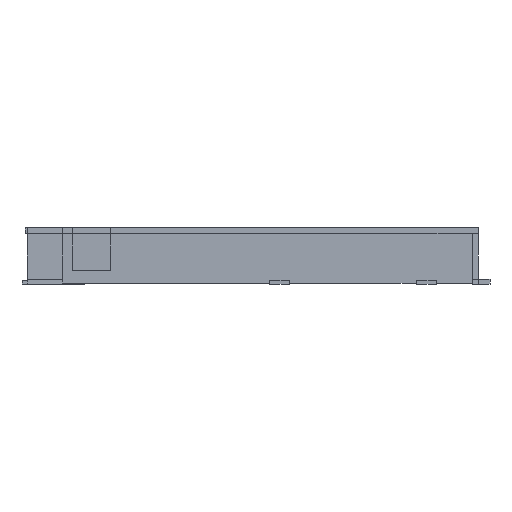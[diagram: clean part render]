
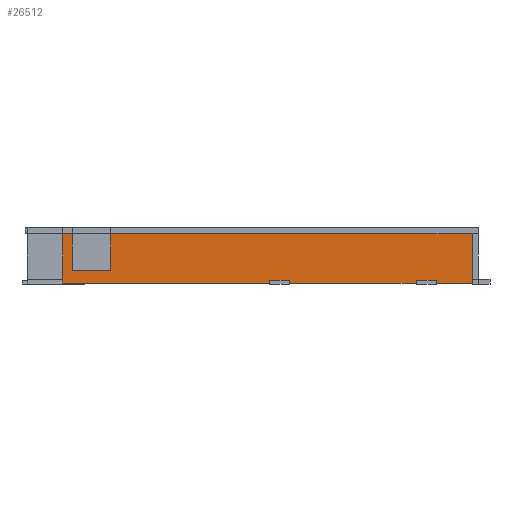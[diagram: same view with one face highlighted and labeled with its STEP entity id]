
A CAD part, left-side view. The second image highlights one B-rep face of the part: STEP entity #26512.
In plain terms, the highlighted planar face has unit normal (-1, 0, 0).
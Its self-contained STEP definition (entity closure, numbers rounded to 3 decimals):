
#26512 = ADVANCED_FACE('',(#26513),#26527,.F.);
#26513 = FACE_BOUND('',#26514,.T.);
#26514 = EDGE_LOOP('',(#26515,#26550,#26578,#26606));
#26515 = ORIENTED_EDGE('',*,*,#26516,.F.);
#26516 = EDGE_CURVE('',#26517,#26519,#26521,.T.);
#26517 = VERTEX_POINT('',#26518);
#26518 = CARTESIAN_POINT('',(-5.8,5.62,1.27));
#26519 = VERTEX_POINT('',#26520);
#26520 = CARTESIAN_POINT('',(-5.8,-5.55,1.27));
#26521 = SURFACE_CURVE('',#26522,(#26526,#26538),.PCURVE_S1.);
#26522 = LINE('',#26523,#26524);
#26523 = CARTESIAN_POINT('',(-5.8,5.62,1.27));
#26524 = VECTOR('',#26525,1.);
#26525 = DIRECTION('',(0.,-1.,0.));
#26526 = PCURVE('',#26527,#26532);
#26527 = PLANE('',#26528);
#26528 = AXIS2_PLACEMENT_3D('',#26529,#26530,#26531);
#26529 = CARTESIAN_POINT('',(-5.8,4.45,0.02));
#26530 = DIRECTION('',(1.,-0.,-0.));
#26531 = DIRECTION('',(0.,0.,-1.));
#26532 = DEFINITIONAL_REPRESENTATION('',(#26533),#26537);
#26533 = LINE('',#26534,#26535);
#26534 = CARTESIAN_POINT('',(-1.25,1.17));
#26535 = VECTOR('',#26536,1.);
#26536 = DIRECTION('',(-0.,-1.));
#26537 = ( GEOMETRIC_REPRESENTATION_CONTEXT(2) 
PARAMETRIC_REPRESENTATION_CONTEXT() REPRESENTATION_CONTEXT('2D SPACE',''
  ) );
#26538 = PCURVE('',#26539,#26544);
#26539 = PLANE('',#26540);
#26540 = AXIS2_PLACEMENT_3D('',#26541,#26542,#26543);
#26541 = CARTESIAN_POINT('',(-5.8,4.45,1.27));
#26542 = DIRECTION('',(-0.,-0.,1.));
#26543 = DIRECTION('',(-1.,0.,0.));
#26544 = DEFINITIONAL_REPRESENTATION('',(#26545),#26549);
#26545 = LINE('',#26546,#26547);
#26546 = CARTESIAN_POINT('',(0.,-1.17));
#26547 = VECTOR('',#26548,1.);
#26548 = DIRECTION('',(0.,1.));
#26549 = ( GEOMETRIC_REPRESENTATION_CONTEXT(2) 
PARAMETRIC_REPRESENTATION_CONTEXT() REPRESENTATION_CONTEXT('2D SPACE',''
  ) );
#26550 = ORIENTED_EDGE('',*,*,#26551,.F.);
#26551 = EDGE_CURVE('',#26552,#26517,#26554,.T.);
#26552 = VERTEX_POINT('',#26553);
#26553 = CARTESIAN_POINT('',(-5.8,5.62,0.02));
#26554 = SURFACE_CURVE('',#26555,(#26559,#26566),.PCURVE_S1.);
#26555 = LINE('',#26556,#26557);
#26556 = CARTESIAN_POINT('',(-5.8,5.62,0.02));
#26557 = VECTOR('',#26558,1.);
#26558 = DIRECTION('',(-0.,-0.,1.));
#26559 = PCURVE('',#26527,#26560);
#26560 = DEFINITIONAL_REPRESENTATION('',(#26561),#26565);
#26561 = LINE('',#26562,#26563);
#26562 = CARTESIAN_POINT('',(-0.,1.17));
#26563 = VECTOR('',#26564,1.);
#26564 = DIRECTION('',(-1.,0.));
#26565 = ( GEOMETRIC_REPRESENTATION_CONTEXT(2) 
PARAMETRIC_REPRESENTATION_CONTEXT() REPRESENTATION_CONTEXT('2D SPACE',''
  ) );
#26566 = PCURVE('',#26567,#26572);
#26567 = PLANE('',#26568);
#26568 = AXIS2_PLACEMENT_3D('',#26569,#26570,#26571);
#26569 = CARTESIAN_POINT('',(-5.8,5.62,0.02));
#26570 = DIRECTION('',(-0.,-1.,0.));
#26571 = DIRECTION('',(0.,0.,-1.));
#26572 = DEFINITIONAL_REPRESENTATION('',(#26573),#26577);
#26573 = LINE('',#26574,#26575);
#26574 = CARTESIAN_POINT('',(-0.,0.));
#26575 = VECTOR('',#26576,1.);
#26576 = DIRECTION('',(-1.,0.));
#26577 = ( GEOMETRIC_REPRESENTATION_CONTEXT(2) 
PARAMETRIC_REPRESENTATION_CONTEXT() REPRESENTATION_CONTEXT('2D SPACE',''
  ) );
#26578 = ORIENTED_EDGE('',*,*,#26579,.F.);
#26579 = EDGE_CURVE('',#26580,#26552,#26582,.T.);
#26580 = VERTEX_POINT('',#26581);
#26581 = CARTESIAN_POINT('',(-5.8,-5.55,0.02));
#26582 = SURFACE_CURVE('',#26583,(#26587,#26594),.PCURVE_S1.);
#26583 = LINE('',#26584,#26585);
#26584 = CARTESIAN_POINT('',(-5.8,-5.55,0.02));
#26585 = VECTOR('',#26586,1.);
#26586 = DIRECTION('',(0.,1.,-0.));
#26587 = PCURVE('',#26527,#26588);
#26588 = DEFINITIONAL_REPRESENTATION('',(#26589),#26593);
#26589 = LINE('',#26590,#26591);
#26590 = CARTESIAN_POINT('',(-0.,-10.));
#26591 = VECTOR('',#26592,1.);
#26592 = DIRECTION('',(-0.,1.));
#26593 = ( GEOMETRIC_REPRESENTATION_CONTEXT(2) 
PARAMETRIC_REPRESENTATION_CONTEXT() REPRESENTATION_CONTEXT('2D SPACE',''
  ) );
#26594 = PCURVE('',#26595,#26600);
#26595 = PLANE('',#26596);
#26596 = AXIS2_PLACEMENT_3D('',#26597,#26598,#26599);
#26597 = CARTESIAN_POINT('',(-5.8,4.45,0.02));
#26598 = DIRECTION('',(-0.,-0.,1.));
#26599 = DIRECTION('',(-1.,0.,0.));
#26600 = DEFINITIONAL_REPRESENTATION('',(#26601),#26605);
#26601 = LINE('',#26602,#26603);
#26602 = CARTESIAN_POINT('',(-0.,10.));
#26603 = VECTOR('',#26604,1.);
#26604 = DIRECTION('',(0.,-1.));
#26605 = ( GEOMETRIC_REPRESENTATION_CONTEXT(2) 
PARAMETRIC_REPRESENTATION_CONTEXT() REPRESENTATION_CONTEXT('2D SPACE',''
  ) );
#26606 = ORIENTED_EDGE('',*,*,#26607,.T.);
#26607 = EDGE_CURVE('',#26580,#26519,#26608,.T.);
#26608 = SURFACE_CURVE('',#26609,(#26613,#26620),.PCURVE_S1.);
#26609 = LINE('',#26610,#26611);
#26610 = CARTESIAN_POINT('',(-5.8,-5.55,0.02));
#26611 = VECTOR('',#26612,1.);
#26612 = DIRECTION('',(-0.,-0.,1.));
#26613 = PCURVE('',#26527,#26614);
#26614 = DEFINITIONAL_REPRESENTATION('',(#26615),#26619);
#26615 = LINE('',#26616,#26617);
#26616 = CARTESIAN_POINT('',(-0.,-10.));
#26617 = VECTOR('',#26618,1.);
#26618 = DIRECTION('',(-1.,0.));
#26619 = ( GEOMETRIC_REPRESENTATION_CONTEXT(2) 
PARAMETRIC_REPRESENTATION_CONTEXT() REPRESENTATION_CONTEXT('2D SPACE',''
  ) );
#26620 = PCURVE('',#26621,#26626);
#26621 = PLANE('',#26622);
#26622 = AXIS2_PLACEMENT_3D('',#26623,#26624,#26625);
#26623 = CARTESIAN_POINT('',(-5.8,-5.55,0.02));
#26624 = DIRECTION('',(-0.,-1.,0.));
#26625 = DIRECTION('',(0.,0.,-1.));
#26626 = DEFINITIONAL_REPRESENTATION('',(#26627),#26631);
#26627 = LINE('',#26628,#26629);
#26628 = CARTESIAN_POINT('',(-0.,0.));
#26629 = VECTOR('',#26630,1.);
#26630 = DIRECTION('',(-1.,0.));
#26631 = ( GEOMETRIC_REPRESENTATION_CONTEXT(2) 
PARAMETRIC_REPRESENTATION_CONTEXT() REPRESENTATION_CONTEXT('2D SPACE',''
  ) );
